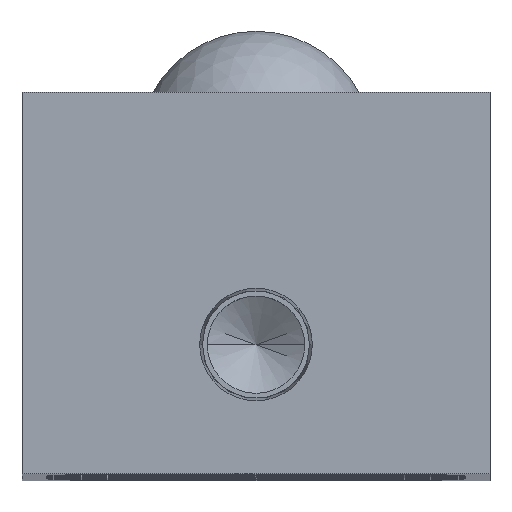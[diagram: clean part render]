
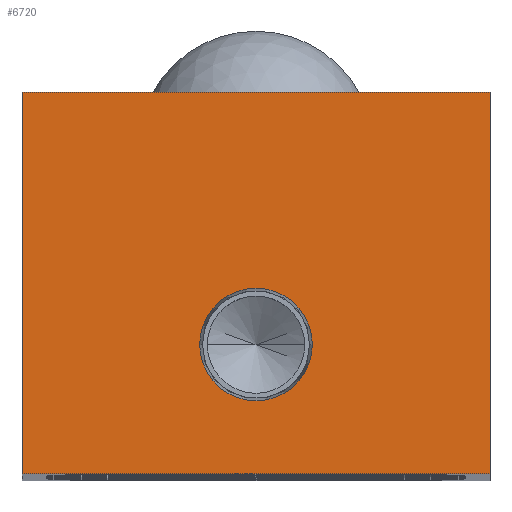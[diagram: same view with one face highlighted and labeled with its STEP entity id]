
A CAD part, top view. The second image highlights one B-rep face of the part: STEP entity #6720.
In plain terms, the highlighted planar face has unit normal (0, 0, 1).
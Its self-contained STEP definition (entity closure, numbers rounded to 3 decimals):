
#206 = VERTEX_POINT ( 'NONE', #5215 ) ;
#435 = VECTOR ( 'NONE', #3586, 1000. ) ;
#473 = ORIENTED_EDGE ( 'NONE', *, *, #6825, .F. ) ;
#565 = DIRECTION ( 'NONE',  ( 1., 0., 0. ) ) ;
#885 = CARTESIAN_POINT ( 'NONE',  ( -19., 0., 0. ) ) ;
#922 = FACE_BOUND ( 'NONE', #3753, .T. ) ;
#1076 = DIRECTION ( 'NONE',  ( 0., 1., 0. ) ) ;
#1414 = LINE ( 'NONE', #4154, #435 ) ;
#1840 = AXIS2_PLACEMENT_3D ( 'NONE', #2195, #2761, #6781 ) ;
#2195 = CARTESIAN_POINT ( 'NONE',  ( 0., 0., 0. ) ) ;
#2206 = LINE ( 'NONE', #885, #6413 ) ;
#2217 = CARTESIAN_POINT ( 'NONE',  ( 0., 10.5, 0. ) ) ;
#2422 = ORIENTED_EDGE ( 'NONE', *, *, #5845, .T. ) ;
#2427 = EDGE_CURVE ( 'NONE', #4287, #7342, #5092, .T. ) ;
#2623 = CARTESIAN_POINT ( 'NONE',  ( -19., 31., 0. ) ) ;
#2643 = CARTESIAN_POINT ( 'NONE',  ( 19., 31., 0. ) ) ;
#2761 = DIRECTION ( 'NONE',  ( 0., 0., -1. ) ) ;
#2783 = DIRECTION ( 'NONE',  ( 1., 0., 0. ) ) ;
#2989 = AXIS2_PLACEMENT_3D ( 'NONE', #2217, #6223, #2783 ) ;
#3240 = EDGE_LOOP ( 'NONE', ( #2422, #5896, #3964, #5191 ) ) ;
#3448 = CIRCLE ( 'NONE', #2989, 4.574 ) ;
#3514 = CARTESIAN_POINT ( 'NONE',  ( 19., 0., 0. ) ) ;
#3586 = DIRECTION ( 'NONE',  ( 1., 0., 0. ) ) ;
#3596 = EDGE_CURVE ( 'NONE', #4392, #6403, #1414, .T. ) ;
#3753 = EDGE_LOOP ( 'NONE', ( #473, #6884 ) ) ;
#3771 = AXIS2_PLACEMENT_3D ( 'NONE', #7447, #4003, #565 ) ;
#3835 = LINE ( 'NONE', #3933, #5192 ) ;
#3913 = VECTOR ( 'NONE', #6646, 1000. ) ;
#3921 = EDGE_CURVE ( 'NONE', #6403, #4287, #3835, .T. ) ;
#3933 = CARTESIAN_POINT ( 'NONE',  ( 19., 31., 0. ) ) ;
#3935 = CARTESIAN_POINT ( 'NONE',  ( -19., 0., 0. ) ) ;
#3964 = ORIENTED_EDGE ( 'NONE', *, *, #3921, .T. ) ;
#3982 = CARTESIAN_POINT ( 'NONE',  ( -19., 31., 0. ) ) ;
#4003 = DIRECTION ( 'NONE',  ( 0., 0., 1. ) ) ;
#4154 = CARTESIAN_POINT ( 'NONE',  ( 19., 0., 0. ) ) ;
#4287 = VERTEX_POINT ( 'NONE', #2643 ) ;
#4392 = VERTEX_POINT ( 'NONE', #3935 ) ;
#4487 = CARTESIAN_POINT ( 'NONE',  ( -4.574, 10.5, 0. ) ) ;
#4616 = VERTEX_POINT ( 'NONE', #4487 ) ;
#5048 = PLANE ( 'NONE',  #1840 ) ;
#5092 = LINE ( 'NONE', #2623, #3913 ) ;
#5124 = EDGE_CURVE ( 'NONE', #4616, #206, #3448, .T. ) ;
#5191 = ORIENTED_EDGE ( 'NONE', *, *, #2427, .T. ) ;
#5192 = VECTOR ( 'NONE', #1076, 1000. ) ;
#5215 = CARTESIAN_POINT ( 'NONE',  ( 4.574, 10.5, 0. ) ) ;
#5493 = DIRECTION ( 'NONE',  ( 0., -1., 0. ) ) ;
#5845 = EDGE_CURVE ( 'NONE', #7342, #4392, #2206, .T. ) ;
#5896 = ORIENTED_EDGE ( 'NONE', *, *, #3596, .T. ) ;
#6223 = DIRECTION ( 'NONE',  ( 0., 0., 1. ) ) ;
#6403 = VERTEX_POINT ( 'NONE', #3514 ) ;
#6413 = VECTOR ( 'NONE', #5493, 1000. ) ;
#6483 = CIRCLE ( 'NONE', #3771, 4.574 ) ;
#6646 = DIRECTION ( 'NONE',  ( -1., 0., 0. ) ) ;
#6720 = ADVANCED_FACE ( 'NONE', ( #922, #7022 ), #5048, .F. ) ;
#6781 = DIRECTION ( 'NONE',  ( -1., 0., 0. ) ) ;
#6825 = EDGE_CURVE ( 'NONE', #206, #4616, #6483, .T. ) ;
#6884 = ORIENTED_EDGE ( 'NONE', *, *, #5124, .F. ) ;
#7022 = FACE_OUTER_BOUND ( 'NONE', #3240, .T. ) ;
#7342 = VERTEX_POINT ( 'NONE', #3982 ) ;
#7447 = CARTESIAN_POINT ( 'NONE',  ( 0., 10.5, 0. ) ) ;
